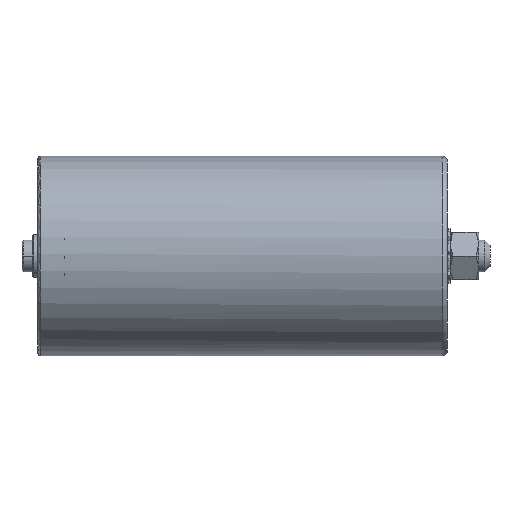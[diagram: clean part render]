
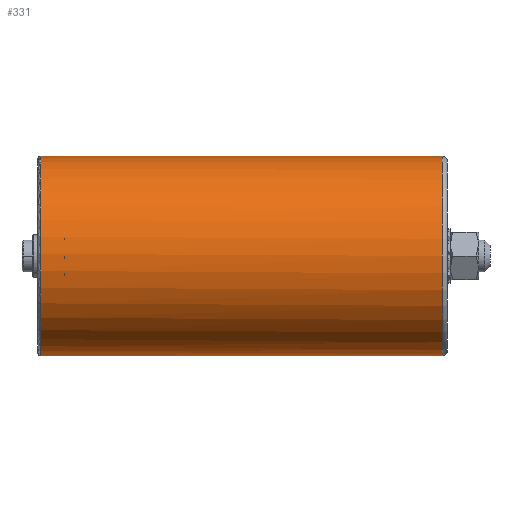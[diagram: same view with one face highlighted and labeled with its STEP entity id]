
A CAD part, left-side view. The second image highlights one B-rep face of the part: STEP entity #331.
In plain terms, the highlighted cylindrical face has radius 37.5 mm (diameter 75 mm), a partial arc.
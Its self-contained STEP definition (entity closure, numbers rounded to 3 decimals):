
#160 = EDGE_CURVE ( 'NONE', #345, #8391, #6950, .T. ) ;
#251 = DIRECTION ( 'NONE',  ( -0.668, 0., -0.744 ) ) ;
#295 = ORIENTED_EDGE ( 'NONE', *, *, #8165, .T. ) ;
#331 = ADVANCED_FACE ( 'NONE', ( #4786 ), #7773, .T. ) ;
#345 = VERTEX_POINT ( 'NONE', #5562 ) ;
#913 = LINE ( 'NONE', #4643, #8196 ) ;
#1050 = EDGE_LOOP ( 'NONE', ( #8129, #295, #5921, #1298, #6805 ) ) ;
#1052 = DIRECTION ( 'NONE',  ( 0., -1., 0. ) ) ;
#1059 = CIRCLE ( 'NONE', #3259, 37.5 ) ;
#1298 = ORIENTED_EDGE ( 'NONE', *, *, #7392, .T. ) ;
#1328 = EDGE_CURVE ( 'NONE', #4003, #8391, #6414, .T. ) ;
#2000 = CARTESIAN_POINT ( 'NONE',  ( -25.036, 153., -27.918 ) ) ;
#2050 = CARTESIAN_POINT ( 'NONE',  ( 0., 153., -37.5 ) ) ;
#2400 = DIRECTION ( 'NONE',  ( 0., -1., 0. ) ) ;
#2693 = CARTESIAN_POINT ( 'NONE',  ( 0., 0., 37.5 ) ) ;
#3220 = CARTESIAN_POINT ( 'NONE',  ( 0., 2., 0. ) ) ;
#3259 = AXIS2_PLACEMENT_3D ( 'NONE', #5386, #2400, #8376 ) ;
#3265 = DIRECTION ( 'NONE',  ( 0., -1., 0. ) ) ;
#3873 = CARTESIAN_POINT ( 'NONE',  ( 0., 153., 37.5 ) ) ;
#4003 = VERTEX_POINT ( 'NONE', #3873 ) ;
#4048 = EDGE_CURVE ( 'NONE', #5667, #7216, #1059, .T. ) ;
#4051 = DIRECTION ( 'NONE',  ( 0., 0., -1. ) ) ;
#4643 = CARTESIAN_POINT ( 'NONE',  ( 0., 0., -37.5 ) ) ;
#4786 = FACE_OUTER_BOUND ( 'NONE', #1050, .T. ) ;
#5386 = CARTESIAN_POINT ( 'NONE',  ( 0., 153., 0. ) ) ;
#5562 = CARTESIAN_POINT ( 'NONE',  ( 0., 2., -37.5 ) ) ;
#5667 = VERTEX_POINT ( 'NONE', #2000 ) ;
#5682 = DIRECTION ( 'NONE',  ( 0., -1., 0. ) ) ;
#5921 = ORIENTED_EDGE ( 'NONE', *, *, #4048, .T. ) ;
#6155 = AXIS2_PLACEMENT_3D ( 'NONE', #8327, #8382, #251 ) ;
#6414 = LINE ( 'NONE', #2693, #7494 ) ;
#6805 = ORIENTED_EDGE ( 'NONE', *, *, #160, .T. ) ;
#6950 = CIRCLE ( 'NONE', #7428, 37.5 ) ;
#7083 = CIRCLE ( 'NONE', #6155, 37.5 ) ;
#7216 = VERTEX_POINT ( 'NONE', #2050 ) ;
#7392 = EDGE_CURVE ( 'NONE', #7216, #345, #913, .T. ) ;
#7428 = AXIS2_PLACEMENT_3D ( 'NONE', #3220, #8264, #7678 ) ;
#7494 = VECTOR ( 'NONE', #5682, 1000. ) ;
#7678 = DIRECTION ( 'NONE',  ( 0., 0., -1. ) ) ;
#7773 = CYLINDRICAL_SURFACE ( 'NONE', #9140, 37.5 ) ;
#8129 = ORIENTED_EDGE ( 'NONE', *, *, #1328, .F. ) ;
#8165 = EDGE_CURVE ( 'NONE', #4003, #5667, #7083, .T. ) ;
#8196 = VECTOR ( 'NONE', #3265, 1000. ) ;
#8264 = DIRECTION ( 'NONE',  ( 0., 1., 0. ) ) ;
#8327 = CARTESIAN_POINT ( 'NONE',  ( 0., 153., 0. ) ) ;
#8376 = DIRECTION ( 'NONE',  ( -0.668, 0., -0.744 ) ) ;
#8382 = DIRECTION ( 'NONE',  ( 0., -1., 0. ) ) ;
#8391 = VERTEX_POINT ( 'NONE', #9353 ) ;
#8595 = CARTESIAN_POINT ( 'NONE',  ( 0., 0., 0. ) ) ;
#9140 = AXIS2_PLACEMENT_3D ( 'NONE', #8595, #1052, #4051 ) ;
#9353 = CARTESIAN_POINT ( 'NONE',  ( 0., 2., 37.5 ) ) ;
